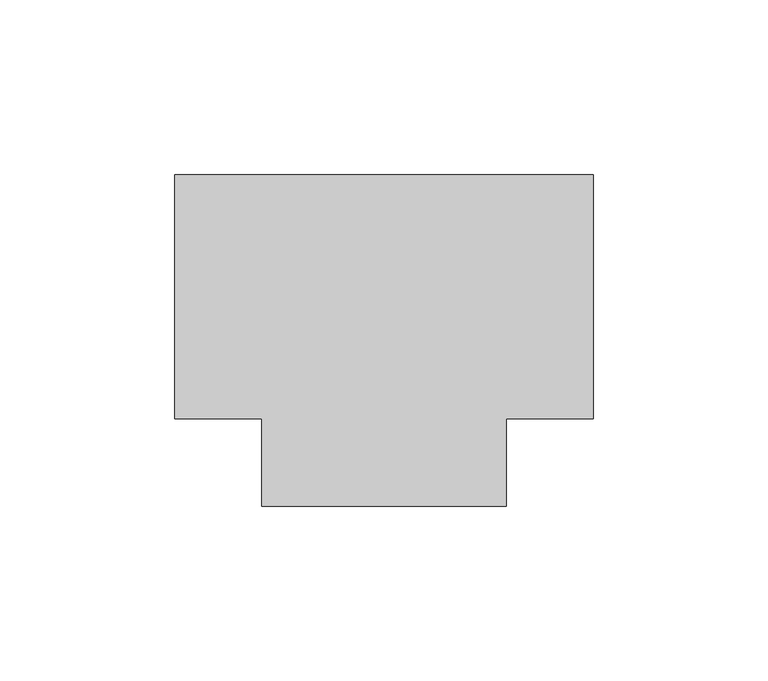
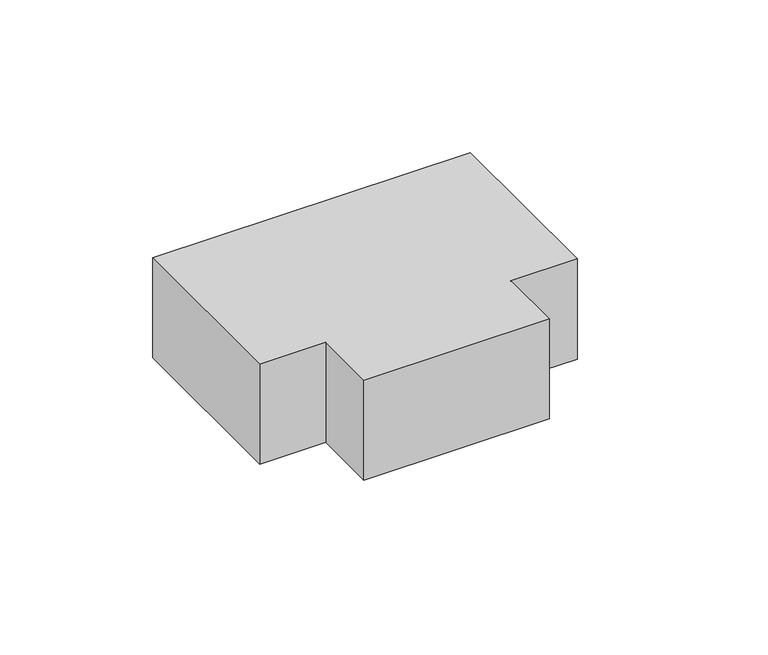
"""IFC4 building model written with IfcOpenShell, lengths in millimetres: duct fitting geometry, КНС_Тройник_DKC : Стандарт."""

from ifc_helpers import new_model, si_unit, frame, origin, place, context, project, spatial, polyline, outline, extrude, source, transform, mapped, element, save


def duct_fitting_fd687a1e(model_context):
    return source(origin(), model_context, "Body", "SweptSolid", [
        extrude(outline(polyline([(-60.0, -35.0), (-60.0, 35.0), (60.0, 35.0), (60.0, -35.0), (35.0, -35.0), (35.0, -60.0), (-35.0, -60.0), (-35.0, -35.0), (-60.0, -35.0)])), frame((0.0, 0.0, -20.0), z_axis=(0.0, 0.0, 1.0), x_axis=(1.0, 0.0, 0.0)), (0.0, 0.0, 1.0), 40.0),
    ])


if __name__ == "__main__":
    model = new_model("IFC4")
    model_context = context("Model", 3, world=origin())
    ifc_project = project(units=[si_unit("LENGTHUNIT", "METRE", prefix="MILLI")], contexts=[model_context])
    site = spatial("IfcSite", under=ifc_project)
    building = spatial("IfcBuilding", under=site)
    placement = place(None, origin())
    duct_fitting_shape = duct_fitting_fd687a1e(model_context)
    element("IfcDuctFitting", 1, ObjectType="КНС_Тройник_DKC : Стандарт", at=placement, inside=building, context=model_context, shape_type="MappedRepresentation", body=[
        mapped(duct_fitting_shape, transform((0.0, 0.0, 0.0), x_axis=(1.0, 0.0, 0.0), y_axis=(0.0, 1.0, 0.0), z_axis=(0.0, 0.0, 1.0))),
    ])
    save(model, "model.ifc")
